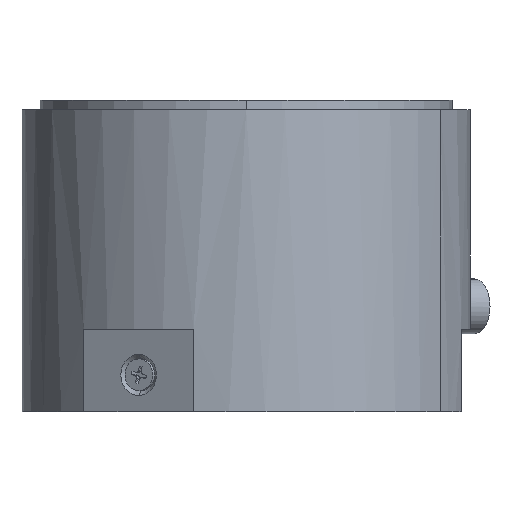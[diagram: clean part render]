
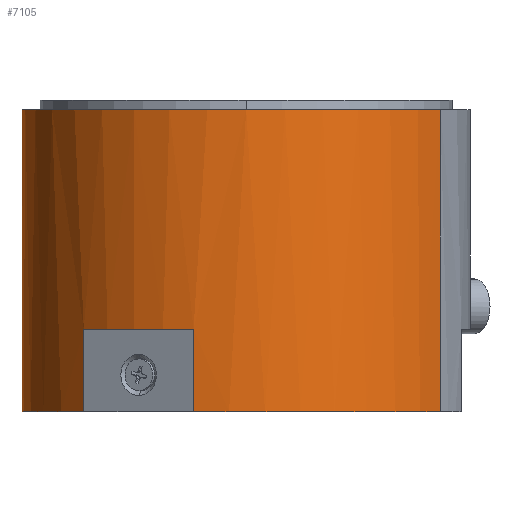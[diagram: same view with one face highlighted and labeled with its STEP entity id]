
A CAD part, left-side view. The second image highlights one B-rep face of the part: STEP entity #7105.
In plain terms, the highlighted cylindrical face has radius 24.5 mm (diameter 49 mm), a partial arc.
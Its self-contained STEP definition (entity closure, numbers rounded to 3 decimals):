
#388 = EDGE_CURVE ( 'NONE', #1044, #2414, #11315, .T. ) ;
#501 = ORIENTED_EDGE ( 'NONE', *, *, #3311, .T. ) ;
#528 = CARTESIAN_POINT ( 'NONE',  ( 0., 0., 33. ) ) ;
#729 = DIRECTION ( 'NONE',  ( 0., 0., -1. ) ) ;
#917 = CIRCLE ( 'NONE', #7653, 24.5 ) ;
#1044 = VERTEX_POINT ( 'NONE', #2913 ) ;
#1082 = CARTESIAN_POINT ( 'NONE',  ( 0., 0., 0. ) ) ;
#1258 = CARTESIAN_POINT ( 'NONE',  ( -23.816, 5.75, 0. ) ) ;
#1434 = CARTESIAN_POINT ( 'NONE',  ( -23.816, 5.75, 23.892 ) ) ;
#1498 = DIRECTION ( 'NONE',  ( 0., 0., -1. ) ) ;
#1769 = CARTESIAN_POINT ( 'NONE',  ( 0., 0., 0. ) ) ;
#1864 = VECTOR ( 'NONE', #11376, 1000. ) ;
#2414 = VERTEX_POINT ( 'NONE', #5768 ) ;
#2727 = CARTESIAN_POINT ( 'NONE',  ( 0., 0., 9. ) ) ;
#2832 = DIRECTION ( 'NONE',  ( -0.5, -0.866, 0. ) ) ;
#2910 = EDGE_CURVE ( 'NONE', #11318, #3455, #4427, .T. ) ;
#2913 = CARTESIAN_POINT ( 'NONE',  ( -12.25, -21.218, 33. ) ) ;
#2958 = CIRCLE ( 'NONE', #6965, 24.5 ) ;
#3038 = AXIS2_PLACEMENT_3D ( 'NONE', #1769, #10335, #7498 ) ;
#3170 = VERTEX_POINT ( 'NONE', #9865 ) ;
#3311 = EDGE_CURVE ( 'NONE', #3170, #4424, #2958, .T. ) ;
#3455 = VERTEX_POINT ( 'NONE', #9504 ) ;
#3735 = VECTOR ( 'NONE', #7010, 1000. ) ;
#4367 = LINE ( 'NONE', #8318, #1864 ) ;
#4424 = VERTEX_POINT ( 'NONE', #7647 ) ;
#4427 = CIRCLE ( 'NONE', #11245, 24.5 ) ;
#4524 = CARTESIAN_POINT ( 'NONE',  ( 12.25, 21.218, 33. ) ) ;
#4783 = LINE ( 'NONE', #1434, #11766 ) ;
#4850 = LINE ( 'NONE', #4524, #9615 ) ;
#4900 = ORIENTED_EDGE ( 'NONE', *, *, #5052, .F. ) ;
#4906 = DIRECTION ( 'NONE',  ( 0., 0., 1. ) ) ;
#5052 = EDGE_CURVE ( 'NONE', #9216, #1044, #917, .T. ) ;
#5394 = VERTEX_POINT ( 'NONE', #1258 ) ;
#5641 = EDGE_LOOP ( 'NONE', ( #6890, #4900, #10599, #11787, #9985, #501, #9785, #9548 ) ) ;
#5768 = CARTESIAN_POINT ( 'NONE',  ( -12.25, -21.218, 0. ) ) ;
#6053 = CARTESIAN_POINT ( 'NONE',  ( -12.25, -21.218, 33. ) ) ;
#6543 = DIRECTION ( 'NONE',  ( 0., 0., 1. ) ) ;
#6890 = ORIENTED_EDGE ( 'NONE', *, *, #388, .F. ) ;
#6965 = AXIS2_PLACEMENT_3D ( 'NONE', #2727, #6543, #7501 ) ;
#7010 = DIRECTION ( 'NONE',  ( 0., 0., -1. ) ) ;
#7105 = ADVANCED_FACE ( 'NONE', ( #10556 ), #11015, .T. ) ;
#7401 = DIRECTION ( 'NONE',  ( 0., 0., -1. ) ) ;
#7498 = DIRECTION ( 'NONE',  ( -0.5, -0.866, 0. ) ) ;
#7501 = DIRECTION ( 'NONE',  ( 0.5, 0.866, 0. ) ) ;
#7647 = CARTESIAN_POINT ( 'NONE',  ( -23.816, 5.75, 9. ) ) ;
#7653 = AXIS2_PLACEMENT_3D ( 'NONE', #9411, #9353, #2832 ) ;
#7796 = DIRECTION ( 'NONE',  ( -0.5, -0.866, 0. ) ) ;
#8318 = CARTESIAN_POINT ( 'NONE',  ( -16.887, 17.75, 23.892 ) ) ;
#8436 = EDGE_CURVE ( 'NONE', #5394, #2414, #10757, .T. ) ;
#8450 = EDGE_CURVE ( 'NONE', #3170, #3455, #4367, .T. ) ;
#8785 = AXIS2_PLACEMENT_3D ( 'NONE', #528, #1498, #10111 ) ;
#9216 = VERTEX_POINT ( 'NONE', #10748 ) ;
#9353 = DIRECTION ( 'NONE',  ( 0., 0., 1. ) ) ;
#9411 = CARTESIAN_POINT ( 'NONE',  ( 0., 0., 33. ) ) ;
#9504 = CARTESIAN_POINT ( 'NONE',  ( -16.887, 17.75, 0. ) ) ;
#9548 = ORIENTED_EDGE ( 'NONE', *, *, #8436, .T. ) ;
#9615 = VECTOR ( 'NONE', #7401, 1000. ) ;
#9785 = ORIENTED_EDGE ( 'NONE', *, *, #10355, .T. ) ;
#9865 = CARTESIAN_POINT ( 'NONE',  ( -16.887, 17.75, 9. ) ) ;
#9985 = ORIENTED_EDGE ( 'NONE', *, *, #8450, .F. ) ;
#10111 = DIRECTION ( 'NONE',  ( 0.5, 0.866, 0. ) ) ;
#10335 = DIRECTION ( 'NONE',  ( 0., 0., 1. ) ) ;
#10355 = EDGE_CURVE ( 'NONE', #4424, #5394, #4783, .T. ) ;
#10556 = FACE_OUTER_BOUND ( 'NONE', #5641, .T. ) ;
#10599 = ORIENTED_EDGE ( 'NONE', *, *, #11493, .T. ) ;
#10663 = CARTESIAN_POINT ( 'NONE',  ( 12.25, 21.218, 0. ) ) ;
#10748 = CARTESIAN_POINT ( 'NONE',  ( 12.25, 21.218, 33. ) ) ;
#10757 = CIRCLE ( 'NONE', #3038, 24.5 ) ;
#11015 = CYLINDRICAL_SURFACE ( 'NONE', #8785, 24.5 ) ;
#11245 = AXIS2_PLACEMENT_3D ( 'NONE', #1082, #4906, #7796 ) ;
#11315 = LINE ( 'NONE', #6053, #3735 ) ;
#11318 = VERTEX_POINT ( 'NONE', #10663 ) ;
#11376 = DIRECTION ( 'NONE',  ( 0., 0., -1. ) ) ;
#11493 = EDGE_CURVE ( 'NONE', #9216, #11318, #4850, .T. ) ;
#11766 = VECTOR ( 'NONE', #729, 1000. ) ;
#11787 = ORIENTED_EDGE ( 'NONE', *, *, #2910, .T. ) ;
